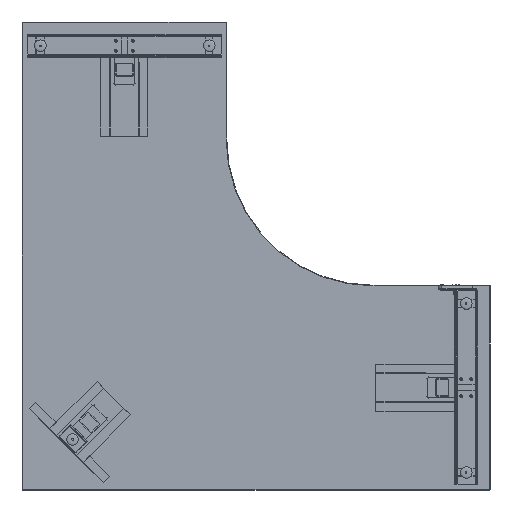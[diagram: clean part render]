
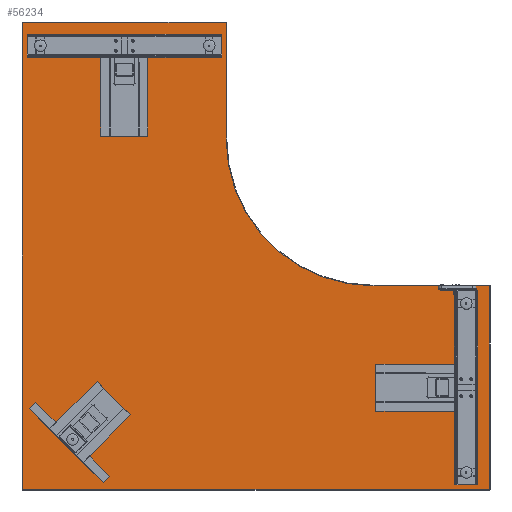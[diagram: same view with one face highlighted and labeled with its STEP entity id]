
A CAD part, front view. The second image highlights one B-rep face of the part: STEP entity #56234.
In plain terms, the highlighted planar face has unit normal (0, -1, 0).
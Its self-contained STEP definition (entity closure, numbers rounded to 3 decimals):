
#5312=CIRCLE('',#62124,502.);
#8484=FACE_OUTER_BOUND('',#11833,.T.);
#11833=EDGE_LOOP('',(#51434,#51435,#51436,#51437,#51438,#51439,#51440));
#16685=LINE('',#116588,#21558);
#16687=LINE('',#116597,#21560);
#16695=LINE('',#116630,#21568);
#16699=LINE('',#116643,#21572);
#16701=LINE('',#116646,#21574);
#16705=LINE('',#116652,#21578);
#21558=VECTOR('',#78432,10.);
#21560=VECTOR('',#78444,10.);
#21568=VECTOR('',#78484,10.);
#21572=VECTOR('',#78500,10.);
#21574=VECTOR('',#78504,10.);
#21578=VECTOR('',#78512,10.);
#26785=VERTEX_POINT('',#116549);
#26794=VERTEX_POINT('',#116576);
#26797=VERTEX_POINT('',#116586);
#26799=VERTEX_POINT('',#116592);
#26801=VERTEX_POINT('',#116601);
#26807=VERTEX_POINT('',#116621);
#26810=VERTEX_POINT('',#116634);
#34986=EDGE_CURVE('',#26797,#26794,#16685,.T.);
#34989=EDGE_CURVE('',#26799,#26797,#5312,.T.);
#34991=EDGE_CURVE('',#26785,#26799,#16687,.T.);
#35008=EDGE_CURVE('',#26794,#26807,#16695,.T.);
#35015=EDGE_CURVE('',#26807,#26810,#16699,.T.);
#35017=EDGE_CURVE('',#26810,#26801,#16701,.T.);
#35021=EDGE_CURVE('',#26801,#26785,#16705,.T.);
#51434=ORIENTED_EDGE('',*,*,#34986,.F.);
#51435=ORIENTED_EDGE('',*,*,#34989,.F.);
#51436=ORIENTED_EDGE('',*,*,#34991,.F.);
#51437=ORIENTED_EDGE('',*,*,#35021,.F.);
#51438=ORIENTED_EDGE('',*,*,#35017,.F.);
#51439=ORIENTED_EDGE('',*,*,#35015,.F.);
#51440=ORIENTED_EDGE('',*,*,#35008,.F.);
#53071=PLANE('',#62157);
#56234=ADVANCED_FACE('',(#8484),#53071,.F.);
#62124=AXIS2_PLACEMENT_3D('',#116594,#78438,#78439);
#62157=AXIS2_PLACEMENT_3D('',#116663,#78528,#78529);
#78432=DIRECTION('',(1.,0.,0.));
#78438=DIRECTION('center_axis',(0.,-1.,0.));
#78439=DIRECTION('ref_axis',(-0.707,0.,-0.707));
#78444=DIRECTION('',(0.,0.,-1.));
#78484=DIRECTION('',(0.,0.,-1.));
#78500=DIRECTION('',(-1.,0.,0.));
#78504=DIRECTION('',(0.,0.,1.));
#78512=DIRECTION('',(1.,0.,0.));
#78528=DIRECTION('center_axis',(0.,1.,0.));
#78529=DIRECTION('ref_axis',(1.,0.,0.));
#116549=CARTESIAN_POINT('',(698.,725.,-2.));
#116576=CARTESIAN_POINT('',(1598.,725.,-902.));
#116586=CARTESIAN_POINT('',(1200.,725.,-902.));
#116588=CARTESIAN_POINT('',(1200.,725.,-902.));
#116592=CARTESIAN_POINT('',(698.,725.,-400.));
#116594=CARTESIAN_POINT('Origin',(1200.,725.,-400.));
#116597=CARTESIAN_POINT('',(698.,725.,-600.));
#116601=CARTESIAN_POINT('',(2.,725.,-2.));
#116621=CARTESIAN_POINT('',(1598.,725.,-1598.));
#116630=CARTESIAN_POINT('',(1598.,725.,-1200.));
#116634=CARTESIAN_POINT('',(2.,725.,-1598.));
#116643=CARTESIAN_POINT('',(400.,725.,-1598.));
#116646=CARTESIAN_POINT('',(2.,725.,-400.));
#116652=CARTESIAN_POINT('',(750.,725.,-2.));
#116663=CARTESIAN_POINT('Origin',(800.,725.,-800.));
